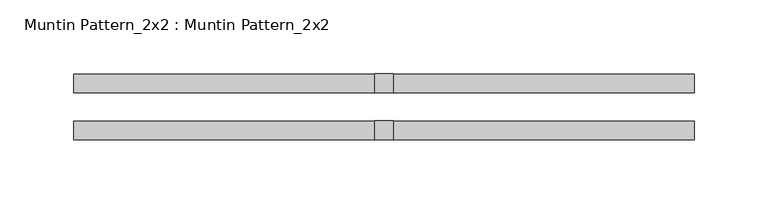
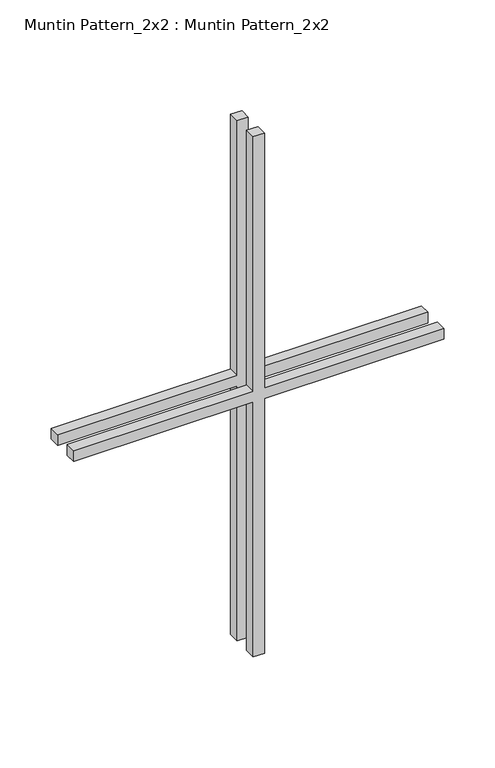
"""IFC4 building model written with IfcOpenShell, lengths in millimetres: proxy geometry, Muntin Pattern_2x2 : Muntin Pattern_2x2."""

from ifc_helpers import new_model, si_unit, frame, origin, place, context, project, spatial, polyline, outline, extrude, source, transform, mapped, element, save


def muntin_pattern_2x2_muntin_pattern_2x2_75d79e6a(model_context):
    return source(origin(), model_context, "Body", "SweptSolid", [
        extrude(outline(polyline([(317.5, -6.35), (317.5, -209.55), (304.8, -209.55), (304.8, -6.35), (0.0, -6.35), (0.0, 6.35), (304.8, 6.35), (304.8, 209.55), (317.5, 209.55), (317.5, 6.35), (622.3, 6.35), (622.3, -6.35), (317.5, -6.35)])), frame((0.0, -22.225, 0.0), z_axis=(0.0, 1.0, 0.0), x_axis=(0.0, 0.0, 1.0)), (0.0, 0.0, 1.0), 12.7),
        extrude(outline(polyline([(317.5, -6.35), (317.5, -209.55), (304.8, -209.55), (304.8, -6.35), (0.0, -6.35), (0.0, 6.35), (304.8, 6.35), (304.8, 209.55), (317.5, 209.55), (317.5, 6.35), (622.3, 6.35), (622.3, -6.35), (317.5, -6.35)])), frame((0.0, 9.525, 0.0), z_axis=(0.0, 1.0, 0.0), x_axis=(0.0, 0.0, 1.0)), (0.0, 0.0, 1.0), 12.7),
    ])


if __name__ == "__main__":
    model = new_model("IFC4")
    model_context = context("Model", 3, world=origin())
    ifc_project = project(units=[si_unit("LENGTHUNIT", "METRE", prefix="MILLI")], contexts=[model_context])
    site = spatial("IfcSite", under=ifc_project)
    building = spatial("IfcBuilding", under=site)
    placement = place(None, origin())
    muntin_pattern_2x2_muntin_pattern_2x2_shape = muntin_pattern_2x2_muntin_pattern_2x2_75d79e6a(model_context)
    element("IfcBuildingElementProxy", 1, Name="Muntin Pattern_2x2 : Muntin Pattern_2x2", ObjectType="Muntin Pattern_2x2 : Muntin Pattern_2x2", at=placement, inside=building, context=model_context, shape_type="MappedRepresentation", body=[
        mapped(muntin_pattern_2x2_muntin_pattern_2x2_shape, transform((0.0, 0.0, 0.0), x_axis=(1.0, 0.0, 0.0), y_axis=(0.0, 1.0, 0.0), z_axis=(0.0, 0.0, 1.0))),
    ])
    save(model, "model.ifc")
